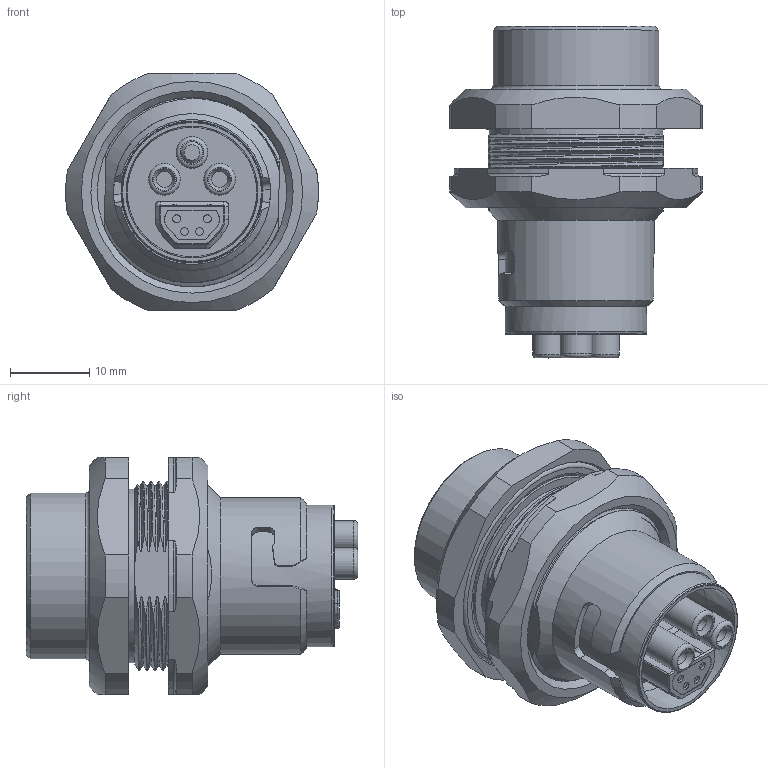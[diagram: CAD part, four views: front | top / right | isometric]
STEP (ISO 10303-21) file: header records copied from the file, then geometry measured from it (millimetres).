
FILE_DESCRIPTION(/* description */ (''),/* implementation_level */ '2;1');
FILE_NAME(/* name */ 'X:\0-inventor\0-3d-Teile\PC-Compo\solids\EtherCAT-P_Stecker_Buchsen\0-Ausgabe\B17 ENP und ECP_T0423\3pol_1_5mm²\HW2_3pol_Pbu_2_5mm²_Step.stp',/* time_stamp */ '2019-04-23T13:22:03+02:00',/* author */ ('ChristianKreuzer'),/* organization */ ('Design-AG'),/* preprocessor_version */ 'ST-DEVELOPER v17.2',/* originating_system */ 'Autodesk Inventor 2019',/* authorisation */ '');
FILE_SCHEMA (('AUTOMOTIVE_DESIGN { 1 0 10303 214 3 1 1 }'));
Length unit declared in the file: millimetre
Products named in the file (1): HW2_3pol_Pbu_2_5mm²_Step
Bounding box: 32 x 42 x 30.01 mm (x, y, z)
Volume: 11455.1 mm3; surface area: 10625 mm2
Topology: 7 solids, 7 shells, 372 faces, 1005 edges, 665 vertices
Faces by surface type: plane 138, cylinder 114, bspline 62, cone 41, torus 17
Full cylindrical faces by diameter (mm): 1 x4, 2 x3, 2.8 x3, 4 x3, 16.4 x1, 16.5 x1, 17.95 x1, 19 x1, 19.85 x1, 21 x1, 22 x1, 24 x1, 24.3 x1, 24.5 x1, 28.1 x1, 28.6 x1
Entity records: 20572 total; most frequent: CARTESIAN_POINT 11195, ORIENTED_EDGE 2006, DIRECTION 1683, EDGE_CURVE 1003, VERTEX_POINT 665, AXIS2_PLACEMENT_3D 644, EDGE_LOOP 400, LINE 395
